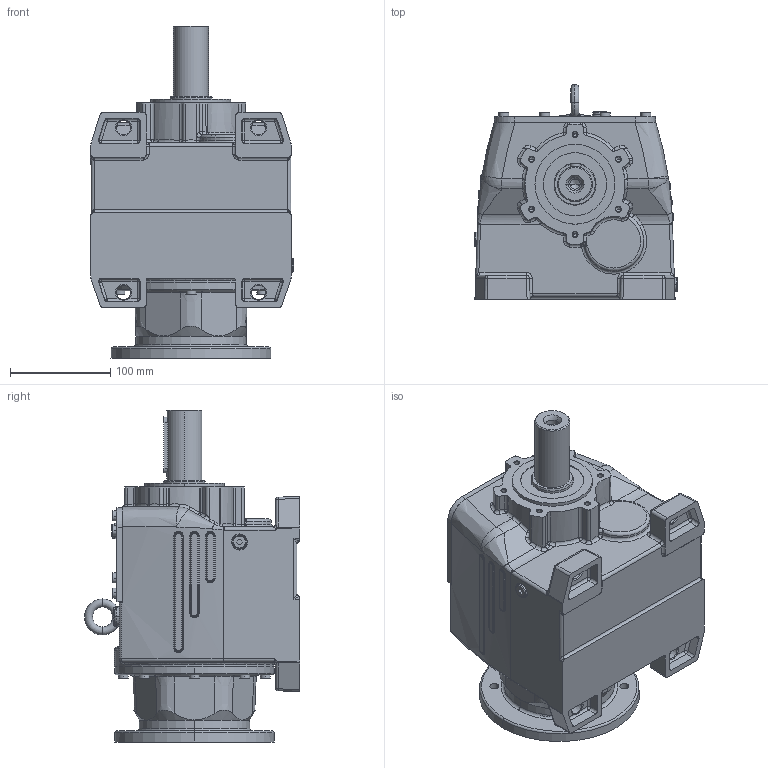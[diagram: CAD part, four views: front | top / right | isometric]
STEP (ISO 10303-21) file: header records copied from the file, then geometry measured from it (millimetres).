
FILE_DESCRIPTION (( 'STEP AP214' ), '1' );
FILE_NAME ('MTC42A-100-130.STEP', '2006-05-04T07:17:10', ( '' ), ( '' ), 'SwSTEP 2.0', 'SolidWorks 2004146', '' );
FILE_SCHEMA (( 'AUTOMOTIVE_DESIGN' ));
Length unit declared in the file: millimetre
Products named in the file (4): Skrin MTC4_A_MTC42A_AP100; D6912_Šroub DIN 6912 - M8x30; Pøíruba MRT120 kulatá _110-130-150; MTC42A-100-130
Assembly tree (8 placements, depth 2):
  MTC42A-100-130
    Pøíruba MRT120 kulatá _110-130-150
    Skrin MTC4_A_MTC42A_AP100
    D6912_Šroub DIN 6912 - M8x30  x6
Bounding box: 203 x 215 x 332 mm (x, y, z)
Volume: 6272424.7 mm3; surface area: 323426.9 mm2
Topology: 8 solids, 8 shells, 1325 faces, 3036 edges, 1763 vertices
Faces by surface type: plane 373, cylinder 357, cone 221, torus 214, bspline 130, sphere 30
Entity records: 111148 total; most frequent: CARTESIAN_POINT 81436, DIRECTION 5640, ORIENTED_EDGE 5312, EDGE_CURVE 2656, AXIS2_PLACEMENT_3D 2278, VERTEX_POINT 1605, CIRCLE 1257, EDGE_LOOP 1255
